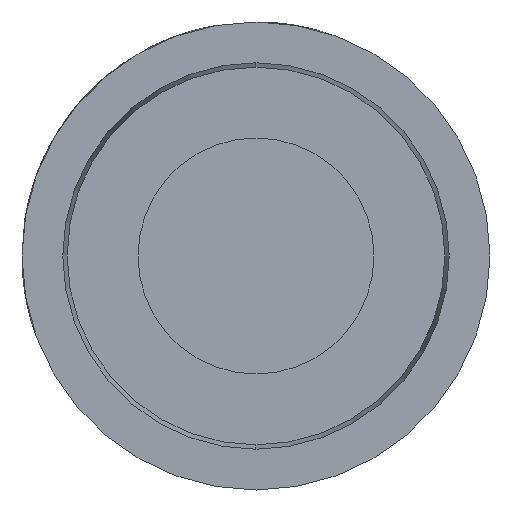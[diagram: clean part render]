
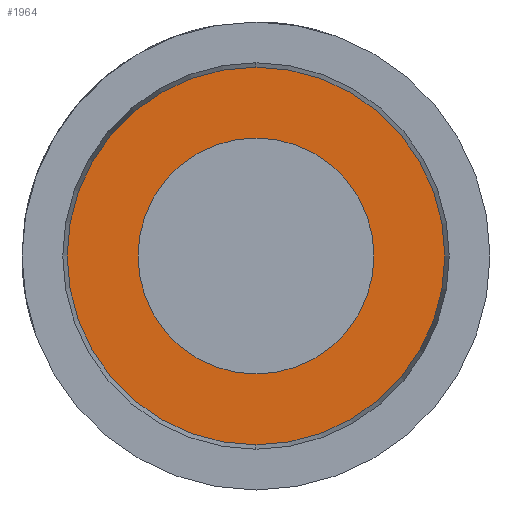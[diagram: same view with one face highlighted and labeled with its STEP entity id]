
A CAD part, left-side view. The second image highlights one B-rep face of the part: STEP entity #1964.
In plain terms, the highlighted planar face has unit normal (-1, 0, 0).
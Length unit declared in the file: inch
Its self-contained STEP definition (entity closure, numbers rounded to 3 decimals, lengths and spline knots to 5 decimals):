
#298 = CARTESIAN_POINT ( 'NONE',  ( 0., 0., 0. ) ) ;
#1082 = VERTEX_POINT ( 'NONE', #11649 ) ;
#1251 = EDGE_CURVE ( 'NONE', #1082, #16685, #27283, .T. ) ;
#1683 = DIRECTION ( 'NONE',  ( -1., 0., 0. ) ) ;
#1964 = ADVANCED_FACE ( 'NONE', ( #16291, #27592 ), #9634, .F. ) ;
#6738 = DIRECTION ( 'NONE',  ( -1., 0., 0. ) ) ;
#6910 = CIRCLE ( 'NONE', #11722, 0.04725 ) ;
#6963 = DIRECTION ( 'NONE',  ( 1., 0., 0. ) ) ;
#7235 = CARTESIAN_POINT ( 'NONE',  ( 0., 0., 0.07562 ) ) ;
#7405 = CARTESIAN_POINT ( 'NONE',  ( 0., 0.07562, 0. ) ) ;
#8525 = AXIS2_PLACEMENT_3D ( 'NONE', #8770, #15703, #27311 ) ;
#8549 = ORIENTED_EDGE ( 'NONE', *, *, #23646, .F. ) ;
#8770 = CARTESIAN_POINT ( 'NONE',  ( 0., 0., 0. ) ) ;
#9634 = PLANE ( 'NONE',  #29119 ) ;
#10396 = VERTEX_POINT ( 'NONE', #16461 ) ;
#11141 = DIRECTION ( 'NONE',  ( 0., 0., 1. ) ) ;
#11649 = CARTESIAN_POINT ( 'NONE',  ( 0., 0., -0.07562 ) ) ;
#11722 = AXIS2_PLACEMENT_3D ( 'NONE', #24848, #1683, #11141 ) ;
#12377 = ORIENTED_EDGE ( 'NONE', *, *, #20841, .F. ) ;
#12846 = DIRECTION ( 'NONE',  ( -1., 0., 0. ) ) ;
#15703 = DIRECTION ( 'NONE',  ( -1., 0., 0. ) ) ;
#15888 = EDGE_LOOP ( 'NONE', ( #28812, #29147 ) ) ;
#16291 = FACE_BOUND ( 'NONE', #27537, .T. ) ;
#16461 = CARTESIAN_POINT ( 'NONE',  ( 0., 0., 0.04725 ) ) ;
#16685 = VERTEX_POINT ( 'NONE', #7235 ) ;
#17385 = CARTESIAN_POINT ( 'NONE',  ( 0., 0., 0. ) ) ;
#17955 = CARTESIAN_POINT ( 'NONE',  ( 0., 0., -0.04725 ) ) ;
#18334 = CIRCLE ( 'NONE', #24144, 0.07562 ) ;
#20763 = DIRECTION ( 'NONE',  ( 0., 0., -1. ) ) ;
#20841 = EDGE_CURVE ( 'NONE', #24425, #10396, #6910, .T. ) ;
#23646 = EDGE_CURVE ( 'NONE', #10396, #24425, #27233, .T. ) ;
#24144 = AXIS2_PLACEMENT_3D ( 'NONE', #298, #6738, #25111 ) ;
#24425 = VERTEX_POINT ( 'NONE', #17955 ) ;
#24848 = CARTESIAN_POINT ( 'NONE',  ( 0., 0., 0. ) ) ;
#25111 = DIRECTION ( 'NONE',  ( 0., 0., 1. ) ) ;
#26727 = DIRECTION ( 'NONE',  ( 0., 0., 1. ) ) ;
#26749 = AXIS2_PLACEMENT_3D ( 'NONE', #17385, #12846, #26727 ) ;
#27233 = CIRCLE ( 'NONE', #26749, 0.04725 ) ;
#27283 = CIRCLE ( 'NONE', #8525, 0.07562 ) ;
#27311 = DIRECTION ( 'NONE',  ( 0., 0., 1. ) ) ;
#27537 = EDGE_LOOP ( 'NONE', ( #8549, #12377 ) ) ;
#27592 = FACE_OUTER_BOUND ( 'NONE', #15888, .T. ) ;
#28812 = ORIENTED_EDGE ( 'NONE', *, *, #29684, .T. ) ;
#29119 = AXIS2_PLACEMENT_3D ( 'NONE', #7405, #6963, #20763 ) ;
#29147 = ORIENTED_EDGE ( 'NONE', *, *, #1251, .T. ) ;
#29684 = EDGE_CURVE ( 'NONE', #16685, #1082, #18334, .T. ) ;
